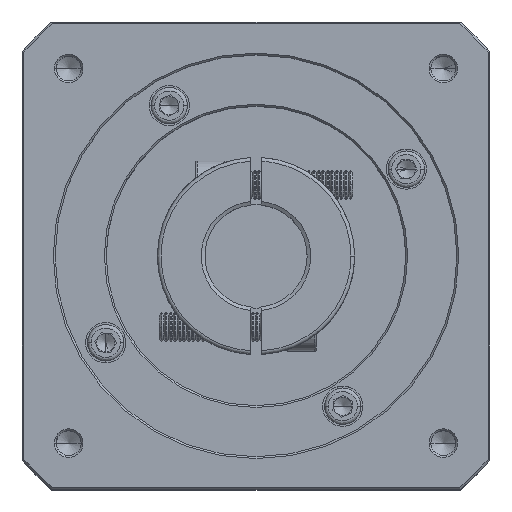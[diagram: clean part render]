
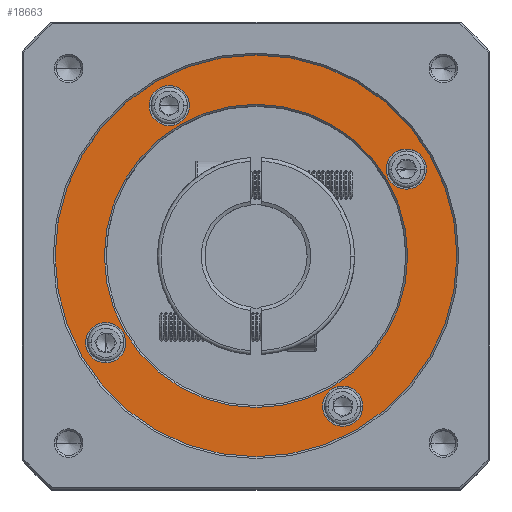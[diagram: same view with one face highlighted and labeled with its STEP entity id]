
A CAD part, top view. The second image highlights one B-rep face of the part: STEP entity #18663.
In plain terms, the highlighted planar face has unit normal (0, 0, 1).
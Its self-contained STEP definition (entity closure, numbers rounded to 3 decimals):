
#848 = DIRECTION ( 'NONE',  ( 0., 0., -1. ) ) ;
#1021 = AXIS2_PLACEMENT_3D ( 'NONE', #84289, #30776, #93288 ) ;
#1382 = ORIENTED_EDGE ( 'NONE', *, *, #60085, .T. ) ;
#2467 = DIRECTION ( 'NONE',  ( 0., 0., -1. ) ) ;
#4012 = ORIENTED_EDGE ( 'NONE', *, *, #103073, .T. ) ;
#5442 = VERTEX_POINT ( 'NONE', #6257 ) ;
#5567 = VERTEX_POINT ( 'NONE', #52754 ) ;
#5924 = CIRCLE ( 'NONE', #1021, 5.5 ) ;
#6257 = CARTESIAN_POINT ( 'NONE',  ( 9.345, 112.427, 47.529 ) ) ;
#7618 = CARTESIAN_POINT ( 'NONE',  ( 55.981, 136.177, 47.529 ) ) ;
#10872 = CARTESIAN_POINT ( 'NONE',  ( 55.981, 136.177, 47.529 ) ) ;
#12578 = ORIENTED_EDGE ( 'NONE', *, *, #110307, .T. ) ;
#15132 = DIRECTION ( 'NONE',  ( 0., 0., -1. ) ) ;
#16051 = AXIS2_PLACEMENT_3D ( 'NONE', #10872, #73404, #19890 ) ;
#16671 = DIRECTION ( 'NONE',  ( 1., 0., 0. ) ) ;
#17131 = FACE_OUTER_BOUND ( 'NONE', #20598, .T. ) ;
#18602 = CARTESIAN_POINT ( 'NONE',  ( 37.731, 177.313, 47.529 ) ) ;
#18663 = ADVANCED_FACE ( 'NONE', ( #17131, #112182, #64709, #109382, #85633, #61909 ), #107926, .T. ) ;
#18923 = EDGE_LOOP ( 'NONE', ( #4012, #49752 ) ) ;
#19890 = DIRECTION ( 'NONE',  ( 1., 0., 0. ) ) ;
#20346 = CARTESIAN_POINT ( 'NONE',  ( 97.118, 159.927, 47.529 ) ) ;
#20598 = EDGE_LOOP ( 'NONE', ( #55270, #41668 ) ) ;
#21133 = AXIS2_PLACEMENT_3D ( 'NONE', #54454, #848, #63456 ) ;
#23272 = DIRECTION ( 'NONE',  ( 0., 0., -1. ) ) ;
#24440 = AXIS2_PLACEMENT_3D ( 'NONE', #99308, #45846, #108325 ) ;
#26265 = DIRECTION ( 'NONE',  ( 0., 0., -1. ) ) ;
#28589 = CIRCLE ( 'NONE', #52705, 5.5 ) ;
#29308 = DIRECTION ( 'NONE',  ( 1., 0., 0. ) ) ;
#29472 = VERTEX_POINT ( 'NONE', #113661 ) ;
#30776 = DIRECTION ( 'NONE',  ( 0., 0., -1. ) ) ;
#31497 = ORIENTED_EDGE ( 'NONE', *, *, #60515, .T. ) ;
#32763 = CIRCLE ( 'NONE', #37787, 5.5 ) ;
#35124 = CARTESIAN_POINT ( 'NONE',  ( 85.231, 95.041, 47.529 ) ) ;
#35428 = ORIENTED_EDGE ( 'NONE', *, *, #93290, .T. ) ;
#37721 = CIRCLE ( 'NONE', #21133, 41.5 ) ;
#37742 = CARTESIAN_POINT ( 'NONE',  ( 14.481, 136.177, 47.529 ) ) ;
#37787 = AXIS2_PLACEMENT_3D ( 'NONE', #79745, #26265, #88743 ) ;
#38932 = ORIENTED_EDGE ( 'NONE', *, *, #110793, .T. ) ;
#39859 = AXIS2_PLACEMENT_3D ( 'NONE', #102029, #48544, #110996 ) ;
#39863 = DIRECTION ( 'NONE',  ( 0., 0., -1. ) ) ;
#41668 = ORIENTED_EDGE ( 'NONE', *, *, #113390, .T. ) ;
#43042 = VERTEX_POINT ( 'NONE', #37742 ) ;
#44147 = CIRCLE ( 'NONE', #89281, 5.5 ) ;
#44527 = CARTESIAN_POINT ( 'NONE',  ( 32.231, 177.313, 47.529 ) ) ;
#45846 = DIRECTION ( 'NONE',  ( 0., 0., 1. ) ) ;
#46847 = EDGE_LOOP ( 'NONE', ( #12578, #35428 ) ) ;
#47196 = EDGE_LOOP ( 'NONE', ( #105913, #99001 ) ) ;
#48544 = DIRECTION ( 'NONE',  ( 0., 0., -1. ) ) ;
#49752 = ORIENTED_EDGE ( 'NONE', *, *, #109574, .T. ) ;
#50150 = CIRCLE ( 'NONE', #83353, 5.5 ) ;
#50963 = AXIS2_PLACEMENT_3D ( 'NONE', #7618, #70153, #16671 ) ;
#51543 = VERTEX_POINT ( 'NONE', #72153 ) ;
#52116 = EDGE_CURVE ( 'NONE', #83580, #43042, #37721, .T. ) ;
#52705 = AXIS2_PLACEMENT_3D ( 'NONE', #20346, #82834, #29308 ) ;
#52754 = CARTESIAN_POINT ( 'NONE',  ( 110.981, 136.177, 47.529 ) ) ;
#52889 = VERTEX_POINT ( 'NONE', #18602 ) ;
#53522 = DIRECTION ( 'NONE',  ( 1., 0., 0. ) ) ;
#53850 = CIRCLE ( 'NONE', #39859, 41.5 ) ;
#54454 = CARTESIAN_POINT ( 'NONE',  ( 55.981, 136.177, 47.529 ) ) ;
#54680 = ORIENTED_EDGE ( 'NONE', *, *, #101137, .T. ) ;
#55270 = ORIENTED_EDGE ( 'NONE', *, *, #77179, .T. ) ;
#56077 = CARTESIAN_POINT ( 'NONE',  ( 97.118, 159.927, 47.529 ) ) ;
#60085 = EDGE_CURVE ( 'NONE', #114463, #51543, #44147, .T. ) ;
#60515 = EDGE_CURVE ( 'NONE', #29472, #111712, #28589, .T. ) ;
#61909 = FACE_BOUND ( 'NONE', #46847, .T. ) ;
#63456 = DIRECTION ( 'NONE',  ( 1., 0., 0. ) ) ;
#64709 = FACE_BOUND ( 'NONE', #102221, .T. ) ;
#64755 = CIRCLE ( 'NONE', #93638, 5.5 ) ;
#65061 = DIRECTION ( 'NONE',  ( 1., 0., 0. ) ) ;
#67678 = EDGE_LOOP ( 'NONE', ( #1382, #38932 ) ) ;
#68637 = CARTESIAN_POINT ( 'NONE',  ( 32.231, 177.313, 47.529 ) ) ;
#70153 = DIRECTION ( 'NONE',  ( 0., 0., 1. ) ) ;
#72153 = CARTESIAN_POINT ( 'NONE',  ( 74.231, 95.041, 47.529 ) ) ;
#73404 = DIRECTION ( 'NONE',  ( 0., 0., 1. ) ) ;
#76286 = VERTEX_POINT ( 'NONE', #96598 ) ;
#76778 = CARTESIAN_POINT ( 'NONE',  ( 79.731, 95.041, 47.529 ) ) ;
#77179 = EDGE_CURVE ( 'NONE', #5567, #110051, #100365, .T. ) ;
#77607 = DIRECTION ( 'NONE',  ( 1., 0., 0. ) ) ;
#78113 = CARTESIAN_POINT ( 'NONE',  ( 102.618, 159.927, 47.529 ) ) ;
#79745 = CARTESIAN_POINT ( 'NONE',  ( 14.845, 112.427, 47.529 ) ) ;
#82834 = DIRECTION ( 'NONE',  ( 0., 0., -1. ) ) ;
#83353 = AXIS2_PLACEMENT_3D ( 'NONE', #93363, #39863, #102326 ) ;
#83580 = VERTEX_POINT ( 'NONE', #101884 ) ;
#84289 = CARTESIAN_POINT ( 'NONE',  ( 79.731, 95.041, 47.529 ) ) ;
#85633 = FACE_BOUND ( 'NONE', #67678, .T. ) ;
#85789 = DIRECTION ( 'NONE',  ( 1., 0., 0. ) ) ;
#86606 = AXIS2_PLACEMENT_3D ( 'NONE', #56077, #2467, #65061 ) ;
#88743 = DIRECTION ( 'NONE',  ( 1., 0., 0. ) ) ;
#89281 = AXIS2_PLACEMENT_3D ( 'NONE', #76778, #23272, #85789 ) ;
#90757 = AXIS2_PLACEMENT_3D ( 'NONE', #68637, #15132, #77607 ) ;
#91760 = CIRCLE ( 'NONE', #50963, 55. ) ;
#93288 = DIRECTION ( 'NONE',  ( 1., 0., 0. ) ) ;
#93290 = EDGE_CURVE ( 'NONE', #5442, #76286, #50150, .T. ) ;
#93363 = CARTESIAN_POINT ( 'NONE',  ( 14.845, 112.427, 47.529 ) ) ;
#93638 = AXIS2_PLACEMENT_3D ( 'NONE', #44527, #107019, #53522 ) ;
#96598 = CARTESIAN_POINT ( 'NONE',  ( 20.345, 112.427, 47.529 ) ) ;
#97608 = CIRCLE ( 'NONE', #86606, 5.5 ) ;
#99001 = ORIENTED_EDGE ( 'NONE', *, *, #114190, .T. ) ;
#99308 = CARTESIAN_POINT ( 'NONE',  ( 55.981, 136.177, 47.529 ) ) ;
#99777 = CARTESIAN_POINT ( 'NONE',  ( 26.731, 177.313, 47.529 ) ) ;
#100365 = CIRCLE ( 'NONE', #16051, 55. ) ;
#101054 = VERTEX_POINT ( 'NONE', #99777 ) ;
#101137 = EDGE_CURVE ( 'NONE', #111712, #29472, #97608, .T. ) ;
#101753 = CARTESIAN_POINT ( 'NONE',  ( 0.981, 136.177, 47.529 ) ) ;
#101884 = CARTESIAN_POINT ( 'NONE',  ( 97.481, 136.177, 47.529 ) ) ;
#102029 = CARTESIAN_POINT ( 'NONE',  ( 55.981, 136.177, 47.529 ) ) ;
#102221 = EDGE_LOOP ( 'NONE', ( #54680, #31497 ) ) ;
#102326 = DIRECTION ( 'NONE',  ( 1., 0., 0. ) ) ;
#103073 = EDGE_CURVE ( 'NONE', #52889, #101054, #64755, .T. ) ;
#105913 = ORIENTED_EDGE ( 'NONE', *, *, #52116, .T. ) ;
#107019 = DIRECTION ( 'NONE',  ( 0., 0., -1. ) ) ;
#107926 = PLANE ( 'NONE',  #24440 ) ;
#108325 = DIRECTION ( 'NONE',  ( 1., 0., 0. ) ) ;
#109382 = FACE_BOUND ( 'NONE', #18923, .T. ) ;
#109574 = EDGE_CURVE ( 'NONE', #101054, #52889, #109964, .T. ) ;
#109964 = CIRCLE ( 'NONE', #90757, 5.5 ) ;
#110051 = VERTEX_POINT ( 'NONE', #101753 ) ;
#110307 = EDGE_CURVE ( 'NONE', #76286, #5442, #32763, .T. ) ;
#110793 = EDGE_CURVE ( 'NONE', #51543, #114463, #5924, .T. ) ;
#110996 = DIRECTION ( 'NONE',  ( 1., 0., 0. ) ) ;
#111712 = VERTEX_POINT ( 'NONE', #78113 ) ;
#112182 = FACE_BOUND ( 'NONE', #47196, .T. ) ;
#113390 = EDGE_CURVE ( 'NONE', #110051, #5567, #91760, .T. ) ;
#113661 = CARTESIAN_POINT ( 'NONE',  ( 91.618, 159.927, 47.529 ) ) ;
#114190 = EDGE_CURVE ( 'NONE', #43042, #83580, #53850, .T. ) ;
#114463 = VERTEX_POINT ( 'NONE', #35124 ) ;
